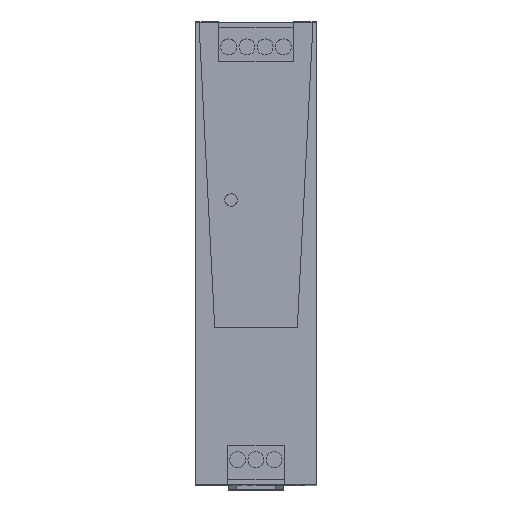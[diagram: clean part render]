
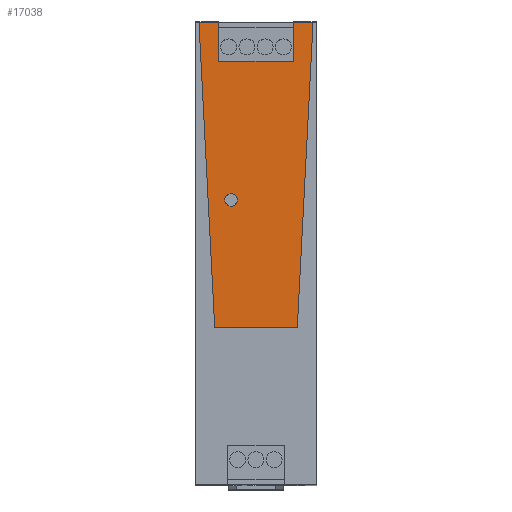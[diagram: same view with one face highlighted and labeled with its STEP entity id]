
A CAD part, top view. The second image highlights one B-rep face of the part: STEP entity #17038.
In plain terms, the highlighted planar face has unit normal (0, 0, 1).
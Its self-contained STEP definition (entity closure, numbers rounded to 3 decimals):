
#16920=AXIS2_PLACEMENT_3D('Circle Axis2P3D',#16918,#16919,$) ;
#16952=AXIS2_PLACEMENT_3D('Circle Axis2P3D',#16950,#16951,$) ;
#16966=AXIS2_PLACEMENT_3D('Plane Axis2P3D',#16963,#16964,#16965) ;
#16915=CARTESIAN_POINT('Vertex',(8.25,81.2,160.1)) ;
#16918=CARTESIAN_POINT('Axis2P3D Location',(10.,81.2,160.1)) ;
#16922=CARTESIAN_POINT('Vertex',(11.75,81.2,160.1)) ;
#16950=CARTESIAN_POINT('Axis2P3D Location',(10.,81.2,160.1)) ;
#16963=CARTESIAN_POINT('Axis2P3D Location',(0.,1.2,160.1)) ;
#16968=CARTESIAN_POINT('Line Origine',(3.187,88.25,160.1)) ;
#16972=CARTESIAN_POINT('Vertex',(0.974,131.2,160.1)) ;
#16974=CARTESIAN_POINT('Vertex',(5.4,45.3,160.1)) ;
#16977=CARTESIAN_POINT('Line Origine',(17.,45.3,160.1)) ;
#16981=CARTESIAN_POINT('Vertex',(28.6,45.3,160.1)) ;
#16984=CARTESIAN_POINT('Line Origine',(30.813,88.25,160.1)) ;
#16988=CARTESIAN_POINT('Vertex',(33.026,131.2,160.1)) ;
#16991=CARTESIAN_POINT('Line Origine',(30.263,131.2,160.1)) ;
#16995=CARTESIAN_POINT('Vertex',(27.5,131.2,160.1)) ;
#16998=CARTESIAN_POINT('Line Origine',(27.5,125.7,160.1)) ;
#17002=CARTESIAN_POINT('Vertex',(27.5,120.2,160.1)) ;
#17005=CARTESIAN_POINT('Line Origine',(17.,120.2,160.1)) ;
#17009=CARTESIAN_POINT('Vertex',(6.5,120.2,160.1)) ;
#17012=CARTESIAN_POINT('Line Origine',(6.5,125.7,160.1)) ;
#17016=CARTESIAN_POINT('Vertex',(6.5,131.2,160.1)) ;
#17019=CARTESIAN_POINT('Line Origine',(3.737,131.2,160.1)) ;
#16919=DIRECTION('Axis2P3D Direction',(0.,0.,1.)) ;
#16951=DIRECTION('Axis2P3D Direction',(0.,0.,1.)) ;
#16964=DIRECTION('Axis2P3D Direction',(0.,0.,1.)) ;
#16965=DIRECTION('Axis2P3D XDirection',(1.,0.,0.)) ;
#16969=DIRECTION('Vector Direction',(-0.051,0.999,0.)) ;
#16978=DIRECTION('Vector Direction',(1.,0.,0.)) ;
#16985=DIRECTION('Vector Direction',(-0.051,-0.999,0.)) ;
#16992=DIRECTION('Vector Direction',(1.,0.,0.)) ;
#16999=DIRECTION('Vector Direction',(0.,1.,0.)) ;
#17006=DIRECTION('Vector Direction',(-1.,0.,0.)) ;
#17013=DIRECTION('Vector Direction',(0.,-1.,0.)) ;
#17020=DIRECTION('Vector Direction',(-1.,0.,0.)) ;
#16970=VECTOR('Line Direction',#16969,1.) ;
#16979=VECTOR('Line Direction',#16978,1.) ;
#16986=VECTOR('Line Direction',#16985,1.) ;
#16993=VECTOR('Line Direction',#16992,1.) ;
#17000=VECTOR('Line Direction',#16999,1.) ;
#17007=VECTOR('Line Direction',#17006,1.) ;
#17014=VECTOR('Line Direction',#17013,1.) ;
#17021=VECTOR('Line Direction',#17020,1.) ;
#17025=ORIENTED_EDGE('',*,*,#16976,.T.) ;
#17026=ORIENTED_EDGE('',*,*,#16983,.T.) ;
#17027=ORIENTED_EDGE('',*,*,#16990,.T.) ;
#17028=ORIENTED_EDGE('',*,*,#16997,.T.) ;
#17029=ORIENTED_EDGE('',*,*,#17004,.T.) ;
#17030=ORIENTED_EDGE('',*,*,#17011,.T.) ;
#17031=ORIENTED_EDGE('',*,*,#17018,.T.) ;
#17032=ORIENTED_EDGE('',*,*,#17023,.T.) ;
#17035=ORIENTED_EDGE('',*,*,#16954,.F.) ;
#17036=ORIENTED_EDGE('',*,*,#16924,.F.) ;
#17037=FACE_BOUND('',#17034,.T.) ;
#17038=ADVANCED_FACE('AUFDRUCK_ORANGE',(#17033,#17037),#16967,.T.) ;
#16921=CIRCLE('generated circle',#16920,1.75) ;
#16953=CIRCLE('generated circle',#16952,1.75) ;
#16924=EDGE_CURVE('',#16916,#16923,#16921,.T.) ;
#16954=EDGE_CURVE('',#16923,#16916,#16953,.T.) ;
#16976=EDGE_CURVE('',#16973,#16975,#16971,.F.) ;
#16983=EDGE_CURVE('',#16975,#16982,#16980,.T.) ;
#16990=EDGE_CURVE('',#16982,#16989,#16987,.F.) ;
#16997=EDGE_CURVE('',#16989,#16996,#16994,.F.) ;
#17004=EDGE_CURVE('',#16996,#17003,#17001,.F.) ;
#17011=EDGE_CURVE('',#17003,#17010,#17008,.T.) ;
#17018=EDGE_CURVE('',#17010,#17017,#17015,.F.) ;
#17023=EDGE_CURVE('',#17017,#16973,#17022,.T.) ;
#17024=EDGE_LOOP('',(#17025,#17026,#17027,#17028,#17029,#17030,#17031,#17032)) ;
#17034=EDGE_LOOP('',(#17035,#17036)) ;
#17033=FACE_OUTER_BOUND('',#17024,.T.) ;
#16971=LINE('Line',#16968,#16970) ;
#16980=LINE('Line',#16977,#16979) ;
#16987=LINE('Line',#16984,#16986) ;
#16994=LINE('Line',#16991,#16993) ;
#17001=LINE('Line',#16998,#17000) ;
#17008=LINE('Line',#17005,#17007) ;
#17015=LINE('Line',#17012,#17014) ;
#17022=LINE('Line',#17019,#17021) ;
#16967=PLANE('',#16966) ;
#16916=VERTEX_POINT('',#16915) ;
#16923=VERTEX_POINT('',#16922) ;
#16973=VERTEX_POINT('',#16972) ;
#16975=VERTEX_POINT('',#16974) ;
#16982=VERTEX_POINT('',#16981) ;
#16989=VERTEX_POINT('',#16988) ;
#16996=VERTEX_POINT('',#16995) ;
#17003=VERTEX_POINT('',#17002) ;
#17010=VERTEX_POINT('',#17009) ;
#17017=VERTEX_POINT('',#17016) ;
